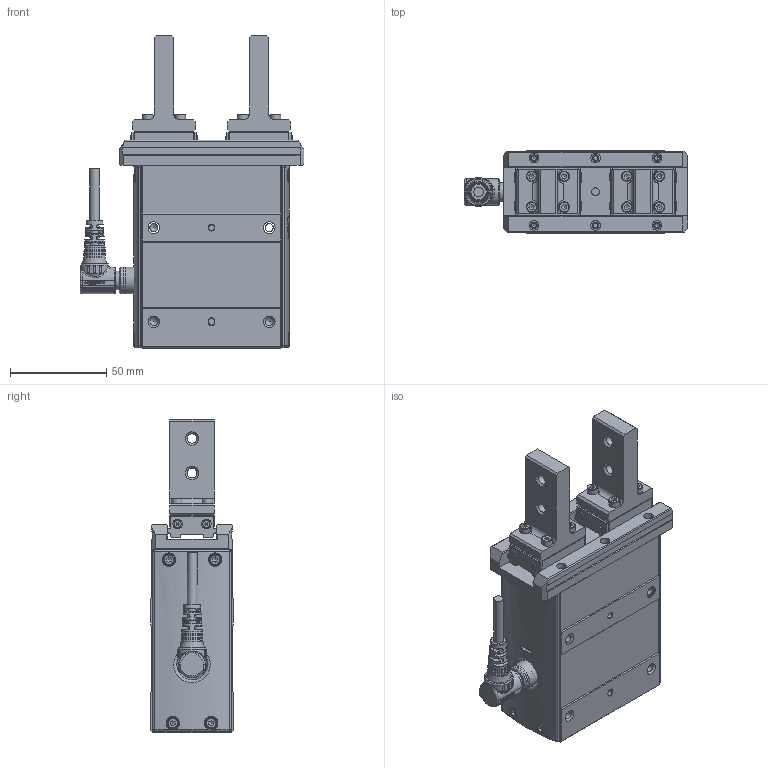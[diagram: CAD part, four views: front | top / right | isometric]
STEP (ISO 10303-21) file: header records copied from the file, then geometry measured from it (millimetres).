
FILE_DESCRIPTION(/* description */ (''),/* implementation_level */ '2;1');
FILE_NAME(/* name */ 'D:\2025.02.25 帶電匯整給泊舟\CHZ2-N22-WM.stp',/* time_stamp */ '2025-02-26T11:03:58+08:00',/* author */ ('T10033'),/* organization */ (''),/* preprocessor_version */ 'ST-DEVELOPER v18.1',/* originating_system */ 'Autodesk Inventor 2020',/* authorisation */ '');
FILE_SCHEMA (('CONFIG_CONTROL_DESIGN'));
Products named in the file (11): CHZ2-N22_(線直出+帶夾具); 12008-000057-02_蓋板修改; 慶陞金屬頭; 6WT3E5DF_Shrinkwrap_1; 63T6E3_Shrinkwrap_1; 43Y6E3TR_Shrinkwrap_1; 326TW3T6SER; 234T63GYETRRRR; 12021-000017_夾具; ANSI B18.3.1M - M3x0.5 x 12(1); M12-14PIN 線端90度接頭-05中繼線
Assembly tree (18 placements, depth 3):
  CHZ2-N22_(線直出+帶夾具)
    12008-000057-02_蓋板修改
    慶陞金屬頭
    6WT3E5DF_Shrinkwrap_1
    63T6E3_Shrinkwrap_1
    43Y6E3TR_Shrinkwrap_1
    326TW3T6SER
      12021-000017_夾具
      ANSI B18.3.1M - M3x0.5 x 12(1)  x4
    234T63GYETRRRR
      12021-000017_夾具
      ANSI B18.3.1M - M3x0.5 x 12(1)  x4
    M12-14PIN 線端90度接頭-05中繼線
Bounding box: 116.3 x 43 x 163 mm (x, y, z)
Volume: 389159.5 mm3; surface area: 93914.9 mm2
Topology: 54 solids, 59 shells, 2735 faces, 7410 edges, 4928 vertices
Faces by surface type: plane 1396, cylinder 612, cone 423, bspline 155, torus 129, sphere 20
Full cylindrical faces by diameter (mm): 0.6 x14, 0.65 x14, 1 x14, 2.013 x8, 2.224 x8, 2.459 x22, 2.5 x8, 2.7 x8, 2.8 x3, 3 x30, 3.2 x8, 3.4 x6, 4 x3, 4.134 x12, 4.917 x4, 5 x15, 5.5 x20, 6.647 x2, 8 x3, 8.9 x1, 9.5 x2, 9.6 x1, 10.5 x2, 10.9 x1, 11 x2, 11.2 x1, 11.25 x1, 12 x1, 13 x1, 13.8 x1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
Entity records: 112473 total; most frequent: CARTESIAN_POINT 43366, DIRECTION 13974, ORIENTED_EDGE 13902, EDGE_CURVE 6969, AXIS2_PLACEMENT_3D 5268, VERTEX_POINT 4642, LINE 3438, VECTOR 3438
